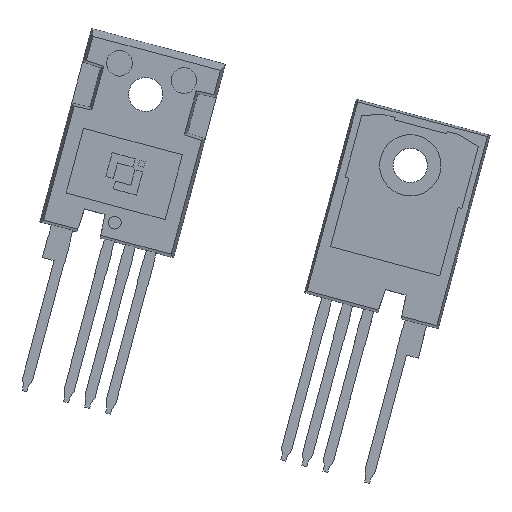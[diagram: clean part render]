
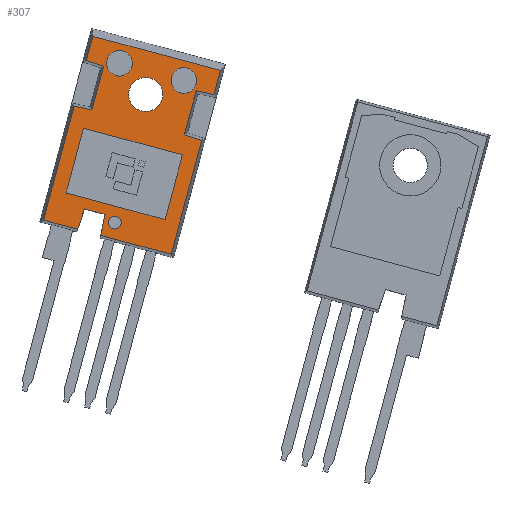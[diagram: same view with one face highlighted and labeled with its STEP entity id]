
A CAD part, top view. The second image highlights one B-rep face of the part: STEP entity #307.
In plain terms, the highlighted planar face has unit normal (0, 0, 1).
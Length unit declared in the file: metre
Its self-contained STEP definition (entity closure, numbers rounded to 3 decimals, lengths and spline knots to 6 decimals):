
#307=ADVANCED_FACE('0:282',(#602,#603,#604,#605,#606,#607),#608,.T.);
#602=FACE_OUTER_BOUND('',#990,.T.);
#603=FACE_BOUND('',#991,.T.);
#604=FACE_BOUND('',#992,.T.);
#605=FACE_BOUND('',#993,.T.);
#606=FACE_BOUND('',#994,.T.);
#607=FACE_BOUND('',#995,.T.);
#608=PLANE('',#996);
#990=EDGE_LOOP('',(#1814,#1815,#1816,#1817,#1818,#1819,#1820,#1821,#1822,#1823,#1824,#1825,#1826,#1827,#1828,#1829));
#991=EDGE_LOOP('',(#1830,#1831));
#992=EDGE_LOOP('',(#1832,#1833));
#993=EDGE_LOOP('',(#1834,#1835));
#994=EDGE_LOOP('',(#1836,#1837));
#995=EDGE_LOOP('',(#1838,#1839,#1840,#1841));
#996=AXIS2_PLACEMENT_3D('',#1842,#1843,#1844);
#1814=ORIENTED_EDGE('',*,*,#2843,.T.);
#1815=ORIENTED_EDGE('',*,*,#2848,.T.);
#1816=ORIENTED_EDGE('',*,*,#2791,.T.);
#1817=ORIENTED_EDGE('',*,*,#2744,.T.);
#1818=ORIENTED_EDGE('',*,*,#2844,.T.);
#1819=ORIENTED_EDGE('',*,*,#2841,.T.);
#1820=ORIENTED_EDGE('',*,*,#2839,.T.);
#1821=ORIENTED_EDGE('',*,*,#2837,.T.);
#1822=ORIENTED_EDGE('',*,*,#2833,.T.);
#1823=ORIENTED_EDGE('',*,*,#2831,.T.);
#1824=ORIENTED_EDGE('',*,*,#2829,.T.);
#1825=ORIENTED_EDGE('',*,*,#2827,.T.);
#1826=ORIENTED_EDGE('',*,*,#2825,.T.);
#1827=ORIENTED_EDGE('',*,*,#2823,.T.);
#1828=ORIENTED_EDGE('',*,*,#2821,.T.);
#1829=ORIENTED_EDGE('',*,*,#2787,.T.);
#1830=ORIENTED_EDGE('',*,*,#2676,.T.);
#1831=ORIENTED_EDGE('',*,*,#2657,.T.);
#1832=ORIENTED_EDGE('',*,*,#2667,.T.);
#1833=ORIENTED_EDGE('',*,*,#2671,.T.);
#1834=ORIENTED_EDGE('',*,*,#2663,.T.);
#1835=ORIENTED_EDGE('',*,*,#2673,.T.);
#1836=ORIENTED_EDGE('',*,*,#2674,.T.);
#1837=ORIENTED_EDGE('',*,*,#2661,.T.);
#1838=ORIENTED_EDGE('',*,*,#2820,.T.);
#1839=ORIENTED_EDGE('',*,*,#2818,.T.);
#1840=ORIENTED_EDGE('',*,*,#2816,.T.);
#1841=ORIENTED_EDGE('',*,*,#2814,.T.);
#1842=CARTESIAN_POINT('',(0.0,0.0,0.005));
#1843=DIRECTION('',(0.0,0.0,1.0));
#1844=DIRECTION('',(1.0,0.0,0.0));
#2657=EDGE_CURVE('0:305',#3139,#3143,#3145,.T.);
#2661=EDGE_CURVE('0:299',#3147,#3151,#3153,.T.);
#2663=EDGE_CURVE('0:293',#3157,#3154,#3158,.T.);
#2667=EDGE_CURVE('0:25',#3165,#3162,#3166,.T.);
#2671=EDGE_CURVE('0:25',#3162,#3165,#3171,.T.);
#2673=EDGE_CURVE('0:293',#3154,#3157,#3173,.T.);
#2674=EDGE_CURVE('0:299',#3151,#3147,#3174,.T.);
#2676=EDGE_CURVE('0:305',#3143,#3139,#3176,.T.);
#2744=EDGE_CURVE('0:557',#3290,#3288,#3291,.T.);
#2787=EDGE_CURVE('0:686',#3361,#3359,#3362,.T.);
#2791=EDGE_CURVE('0:698',#3367,#3290,#3368,.T.);
#2814=EDGE_CURVE('0:767',#3407,#3405,#3408,.T.);
#2816=EDGE_CURVE('0:773',#3410,#3407,#3411,.T.);
#2818=EDGE_CURVE('0:779',#3413,#3410,#3414,.T.);
#2820=EDGE_CURVE('0:785',#3405,#3413,#3416,.T.);
#2821=EDGE_CURVE('0:788',#3417,#3361,#3418,.T.);
#2823=EDGE_CURVE('0:794',#3420,#3417,#3421,.T.);
#2825=EDGE_CURVE('0:800',#3423,#3420,#3424,.T.);
#2827=EDGE_CURVE('0:806',#3426,#3423,#3427,.T.);
#2829=EDGE_CURVE('0:812',#3429,#3426,#3430,.T.);
#2831=EDGE_CURVE('0:818',#3432,#3429,#3433,.T.);
#2833=EDGE_CURVE('0:824',#3435,#3432,#3436,.T.);
#2837=EDGE_CURVE('0:836',#3439,#3435,#3441,.T.);
#2839=EDGE_CURVE('0:842',#3442,#3439,#3444,.T.);
#2841=EDGE_CURVE('0:848',#3445,#3442,#3447,.T.);
#2843=EDGE_CURVE('0:854',#3359,#3448,#3450,.T.);
#2844=EDGE_CURVE('0:857',#3288,#3445,#3451,.T.);
#2848=EDGE_CURVE('0:869',#3448,#3367,#3456,.T.);
#3139=VERTEX_POINT('',#3916);
#3143=VERTEX_POINT('',#3921);
#3145=CIRCLE('',#3924,0.00075);
#3147=VERTEX_POINT('',#3926);
#3151=VERTEX_POINT('',#3931);
#3153=CIRCLE('',#3934,0.002);
#3154=VERTEX_POINT('',#3935);
#3157=VERTEX_POINT('',#3939);
#3158=CIRCLE('',#3940,0.0015);
#3162=VERTEX_POINT('',#3945);
#3165=VERTEX_POINT('',#3949);
#3166=CIRCLE('',#3950,0.0015);
#3171=CIRCLE('',#3956,0.0015);
#3173=CIRCLE('',#3958,0.0015);
#3174=CIRCLE('',#3959,0.002);
#3176=CIRCLE('',#3961,0.00075);
#3288=VERTEX_POINT('',#4136);
#3290=VERTEX_POINT('',#4139);
#3291=LINE('',#4140,#4141);
#3359=VERTEX_POINT('',#4250);
#3361=VERTEX_POINT('',#4253);
#3362=LINE('',#4254,#4255);
#3367=VERTEX_POINT('',#4263);
#3368=LINE('',#4264,#4265);
#3405=VERTEX_POINT('',#4323);
#3407=VERTEX_POINT('',#4326);
#3408=LINE('',#4327,#4328);
#3410=VERTEX_POINT('',#4331);
#3411=LINE('',#4332,#4333);
#3413=VERTEX_POINT('',#4336);
#3414=LINE('',#4337,#4338);
#3416=LINE('',#4341,#4342);
#3417=VERTEX_POINT('',#4343);
#3418=LINE('',#4344,#4345);
#3420=VERTEX_POINT('NONE',#4348);
#3421=LINE('',#4349,#4350);
#3423=VERTEX_POINT('NONE',#4353);
#3424=LINE('',#4354,#4355);
#3426=VERTEX_POINT('NONE',#4358);
#3427=LINE('',#4359,#4360);
#3429=VERTEX_POINT('NONE',#4363);
#3430=LINE('',#4364,#4365);
#3432=VERTEX_POINT('NONE',#4368);
#3433=LINE('',#4369,#4370);
#3435=VERTEX_POINT('NONE',#4373);
#3436=LINE('',#4374,#4375);
#3439=VERTEX_POINT('NONE',#4380);
#3441=LINE('',#4383,#4384);
#3442=VERTEX_POINT('NONE',#4385);
#3444=LINE('',#4388,#4389);
#3445=VERTEX_POINT('NONE',#4390);
#3447=LINE('',#4393,#4394);
#3448=VERTEX_POINT('',#4395);
#3450=LINE('',#4398,#4399);
#3451=LINE('',#4400,#4401);
#3456=LINE('',#4409,#4410);
#3916=CARTESIAN_POINT('',(0.001114,-0.010882,0.005));
#3921=CARTESIAN_POINT('',(-0.000334,-0.010494,0.005));
#3924=AXIS2_PLACEMENT_3D('',#5060,#5061,#5062);
#3926=CARTESIAN_POINT('',(0.001932,0.004226,0.005));
#3931=CARTESIAN_POINT('',(-0.001932,0.005261,0.005));
#3934=AXIS2_PLACEMENT_3D('',#5068,#5069,#5070);
#3935=CARTESIAN_POINT('',(-0.0024,0.007473,0.005));
#3939=CARTESIAN_POINT('',(-0.0054,0.007473,0.005));
#3940=AXIS2_PLACEMENT_3D('',#5072,#5073,#5074);
#3945=CARTESIAN_POINT('',(0.0054,0.007473,0.005));
#3949=CARTESIAN_POINT('',(0.0024,0.007473,0.005));
#3950=AXIS2_PLACEMENT_3D('',#5080,#5081,#5082);
#3956=AXIS2_PLACEMENT_3D('',#5090,#5091,#5092);
#3958=AXIS2_PLACEMENT_3D('',#5096,#5097,#5098);
#3959=AXIS2_PLACEMENT_3D('',#5099,#5100,#5101);
#3961=AXIS2_PLACEMENT_3D('',#5105,#5106,#5107);
#4136=CARTESIAN_POINT('',(0.007732,-0.012555,0.005));
#4139=CARTESIAN_POINT('',(-0.000802,-0.012555,0.005));
#4140=CARTESIAN_POINT('',(-0.003866,-0.012555,0.005));
#4141=VECTOR('',#5181,1.0);
#4250=CARTESIAN_POINT('',(-0.003602,-0.012555,0.005));
#4253=CARTESIAN_POINT('',(-0.007732,-0.012555,0.005));
#4254=CARTESIAN_POINT('',(-0.003866,-0.012555,0.005));
#4255=VECTOR('',#5224,1.0);
#4263=CARTESIAN_POINT('',(-0.000952,-0.010055,0.005));
#4264=CARTESIAN_POINT('',(-0.001213,-0.005699,0.005));
#4265=VECTOR('',#5228,1.0);
#4323=CARTESIAN_POINT('',(-0.006,-0.008815,0.005));
#4326=CARTESIAN_POINT('',(0.006,-0.008815,0.005));
#4327=CARTESIAN_POINT('',(0.,-0.008815,0.005));
#4328=VECTOR('',#5251,1.0);
#4331=CARTESIAN_POINT('',(0.006,-0.000965,0.005));
#4332=CARTESIAN_POINT('',(0.006,-0.002445,0.005));
#4333=VECTOR('',#5253,1.0);
#4336=CARTESIAN_POINT('',(-0.006,-0.000965,0.005));
#4337=CARTESIAN_POINT('',(0.,-0.000965,0.005));
#4338=VECTOR('',#5255,1.0);
#4341=CARTESIAN_POINT('',(-0.006,-0.002445,0.005));
#4342=VECTOR('',#5257,1.0);
#4343=CARTESIAN_POINT('',(-0.007732,0.001245,0.005));
#4344=CARTESIAN_POINT('',(-0.007732,0.001245,0.005));
#4345=VECTOR('',#5258,1.0);
#4348=CARTESIAN_POINT('',(-0.0056,0.001367,0.005));
#4349=CARTESIAN_POINT('',(-0.0056,0.001367,0.005));
#4350=VECTOR('',#5260,1.0);
#4353=CARTESIAN_POINT('',(-0.0056,0.006683,0.005));
#4354=CARTESIAN_POINT('',(-0.0056,0.006683,0.005));
#4355=VECTOR('',#5262,1.0);
#4358=CARTESIAN_POINT('',(-0.007732,0.006805,0.005));
#4359=CARTESIAN_POINT('',(-0.007732,0.006805,0.005));
#4360=VECTOR('',#5264,1.0);
#4363=CARTESIAN_POINT('',(-0.007732,0.009725,0.005));
#4364=CARTESIAN_POINT('',(-0.007732,0.009725,0.005));
#4365=VECTOR('',#5266,1.0);
#4368=CARTESIAN_POINT('',(0.007732,0.009725,0.005));
#4369=CARTESIAN_POINT('',(0.007732,0.009725,0.005));
#4370=VECTOR('',#5268,1.0);
#4373=CARTESIAN_POINT('',(0.007732,0.006805,0.005));
#4374=CARTESIAN_POINT('',(0.007732,0.006805,0.005));
#4375=VECTOR('',#5270,1.0);
#4380=CARTESIAN_POINT('',(0.0056,0.006683,0.005));
#4383=CARTESIAN_POINT('',(0.0056,0.006683,0.005));
#4384=VECTOR('',#5274,1.0);
#4385=CARTESIAN_POINT('',(0.0056,0.001367,0.005));
#4388=CARTESIAN_POINT('',(0.0056,0.001367,0.005));
#4389=VECTOR('',#5276,1.0);
#4390=CARTESIAN_POINT('',(0.007732,0.001245,0.005));
#4393=CARTESIAN_POINT('',(0.007732,0.001245,0.005));
#4394=VECTOR('',#5278,1.0);
#4395=CARTESIAN_POINT('',(-0.003452,-0.010055,0.005));
#4398=CARTESIAN_POINT('',(-0.003183,-0.005567,0.005));
#4399=VECTOR('',#5280,1.0);
#4400=CARTESIAN_POINT('',(0.007732,-0.010255,0.005));
#4401=VECTOR('',#5281,1.0);
#4409=CARTESIAN_POINT('',(-0.001101,-0.010055,0.005));
#4410=VECTOR('',#5285,1.0);
#5060=CARTESIAN_POINT('',(0.00039,-0.010688,0.005));
#5061=DIRECTION('',(0.0,-0.0,-1.0));
#5062=DIRECTION('',(0.966,-0.259,0.0));
#5068=CARTESIAN_POINT('',(0.,0.004743,0.005));
#5069=DIRECTION('',(0.0,-0.0,-1.0));
#5070=DIRECTION('',(0.966,-0.259,0.0));
#5072=CARTESIAN_POINT('',(-0.0039,0.007473,0.005));
#5073=DIRECTION('',(0.0,0.0,-1.0));
#5074=DIRECTION('',(1.0,0.0,0.0));
#5080=CARTESIAN_POINT('',(0.0039,0.007473,0.005));
#5081=DIRECTION('',(0.0,-0.0,-1.0));
#5082=DIRECTION('',(1.0,0.,0.0));
#5090=CARTESIAN_POINT('',(0.0039,0.007473,0.005));
#5091=DIRECTION('',(0.0,-0.0,-1.0));
#5092=DIRECTION('',(1.0,0.,0.0));
#5096=CARTESIAN_POINT('',(-0.0039,0.007473,0.005));
#5097=DIRECTION('',(0.0,0.0,-1.0));
#5098=DIRECTION('',(1.0,0.0,0.0));
#5099=CARTESIAN_POINT('',(0.,0.004743,0.005));
#5100=DIRECTION('',(0.0,-0.0,-1.0));
#5101=DIRECTION('',(0.966,-0.259,0.0));
#5105=CARTESIAN_POINT('',(0.00039,-0.010688,0.005));
#5106=DIRECTION('',(0.0,-0.0,-1.0));
#5107=DIRECTION('',(0.966,-0.259,0.0));
#5181=DIRECTION('',(1.0,0.0,-0.0));
#5224=DIRECTION('',(1.0,0.0,-0.0));
#5228=DIRECTION('',(0.06,-0.998,0.0));
#5251=DIRECTION('',(-1.0,0.,0.0));
#5253=DIRECTION('',(0.,-1.0,0.0));
#5255=DIRECTION('',(1.0,0.,0.0));
#5257=DIRECTION('',(0.,1.0,-0.0));
#5258=DIRECTION('',(0.0,-1.0,0.0));
#5260=DIRECTION('',(-0.998,-0.057,0.0));
#5262=DIRECTION('',(0.0,-1.0,0.0));
#5264=DIRECTION('',(0.998,-0.057,0.0));
#5266=DIRECTION('',(0.0,-1.0,0.0));
#5268=DIRECTION('',(-1.0,0.0,0.0));
#5270=DIRECTION('',(0.0,1.0,0.0));
#5274=DIRECTION('',(0.998,0.057,0.0));
#5276=DIRECTION('',(0.0,1.0,0.0));
#5278=DIRECTION('',(-0.998,0.057,0.0));
#5280=DIRECTION('',(0.06,0.998,-0.0));
#5281=DIRECTION('',(0.0,1.0,0.0));
#5285=DIRECTION('',(1.0,0.,-0.0));
